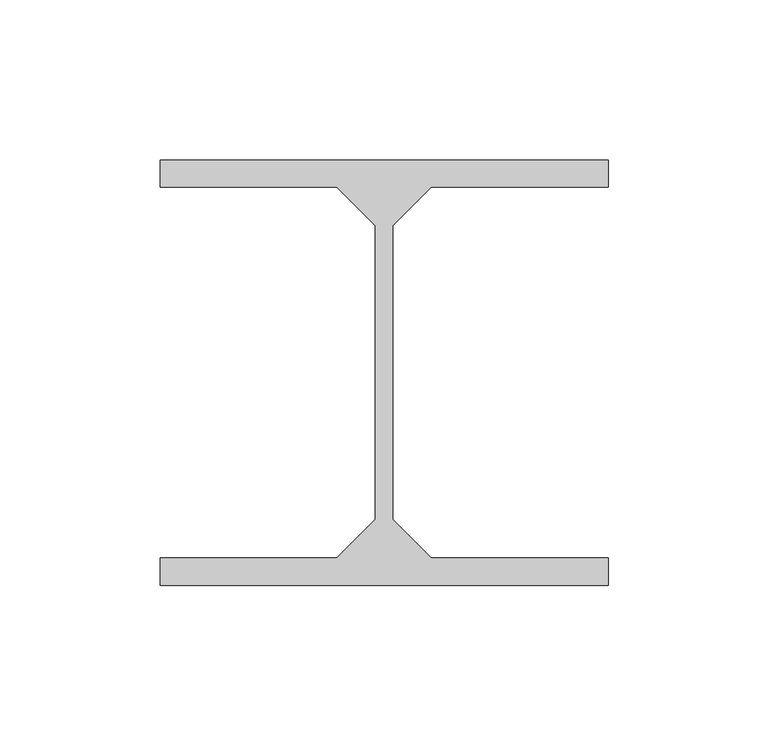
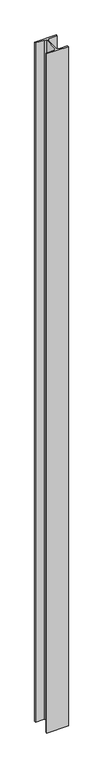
"""IFC4 building model written with IfcOpenShell, lengths in millimetres: beam geometry, Potelet 29307 : Potelet 29307."""

import ifcopenshell
import ifcopenshell.guid

model = None  # the IFC model being written
_history = None  # IfcOwnerHistory: only IFC2X3 demands one
_inside = {}  # id of a spatial element -> (the spatial element, [elements in it])
_under = {}  # id of a project, library or spatial element -> (it, [spatial elements below it])
_declared = {}  # id of a project -> (the project, [libraries it declares])
_typed = {}  # id of a type object -> (the type object, [elements of that type])
_made_of = {}  # id of a material, layer set ... -> (it, [elements and type objects made of it])


def new_model(schema):
    """Start an empty IFC model of exactly this schema.

    Asked for "IFC4X3", IfcOpenShell would pick the latest addendum, in which some entities
    have other attributes; the version numbers below select the first issue.
    IFC2X3 requires an IfcOwnerHistory on every rooted entity: one is made here for all.
    """
    global model, _history
    if schema == "IFC4X3":
        model = ifcopenshell.file(schema_version=(4, 3, 0, 0))
    else:
        model = ifcopenshell.file(schema=schema)
    _inside.clear()
    _under.clear()
    _declared.clear()
    _typed.clear()
    _made_of.clear()
    _history = None
    if model.schema == "IFC2X3":
        org = make("IfcOrganization", Name="unknown")
        user = make(
            "IfcPersonAndOrganization",
            ThePerson=make("IfcPerson", FamilyName="unknown"),
            TheOrganization=org,
        )
        app = make(
            "IfcApplication",
            ApplicationDeveloper=org,
            Version="unknown",
            ApplicationFullName="unknown",
            ApplicationIdentifier="unknown",
        )
        _history = make(
            "IfcOwnerHistory",
            OwningUser=user,
            OwningApplication=app,
            ChangeAction="ADDED",
            CreationDate=0,
        )
    return model


def make(cls, **values):
    """One entity of the class cls with the attributes given. An attribute that is None is left unset."""
    return model.create_entity(
        cls, **{name: value for name, value in values.items() if value is not None}
    )


def rooted(cls, **values):
    """An entity with a GlobalId (a new one), such as an element, a storey or a relation."""
    return make(cls, GlobalId=ifcopenshell.guid.new(), OwnerHistory=_history, **values)


def si_unit(unit_type, name, prefix=None):
    """IfcSIUnit, for example si_unit("LENGTHUNIT", "METRE", prefix="MILLI")."""
    return make("IfcSIUnit", UnitType=unit_type, Prefix=prefix, Name=name)


def assignment(units):
    """IfcUnitAssignment: the units of a project."""
    return None if units is None else make("IfcUnitAssignment", Units=units)


def point(xyz):
    """IfcCartesianPoint."""
    return None if xyz is None else make("IfcCartesianPoint", Coordinates=xyz)


def direction(xyz):
    """IfcDirection."""
    return None if xyz is None else make("IfcDirection", DirectionRatios=xyz)


def frame(location, z_axis=None, x_axis=None):
    """IfcAxis2Placement3D, a coordinate frame: its origin and axes. An axis left out is left unset."""
    return make(
        "IfcAxis2Placement3D",
        Location=point(location),
        Axis=direction(z_axis),
        RefDirection=direction(x_axis),
    )


def origin():
    """The frame at (0, 0, 0) with its axes left unset."""
    return frame((0.0, 0.0, 0.0))


def place(relative_to, where):
    """IfcLocalPlacement: puts the frame where relative to a parent placement (None: the world)."""
    return make(
        "IfcLocalPlacement", PlacementRelTo=relative_to, RelativePlacement=where
    )


def context(
    kind, dimensions, precision=None, world=None, true_north=None, identifier=None
):
    """IfcGeometricRepresentationContext, for example the 3D "Model" context."""
    return make(
        "IfcGeometricRepresentationContext",
        ContextIdentifier=identifier,
        ContextType=kind,
        CoordinateSpaceDimension=dimensions,
        Precision=precision,
        WorldCoordinateSystem=world,
        TrueNorth=true_north,
    )


def project(units=None, contexts=None):
    """IfcProject with its units and contexts."""
    return rooted(
        "IfcProject",
        Name="project",
        RepresentationContexts=contexts,
        UnitsInContext=assignment(units),
    )


def spatial(cls, under=None, at=None, **own):
    """A site, building, storey or space (cls), placed at a placement, below another one or the project."""
    s = rooted(cls, ObjectPlacement=at, **own)
    if under is not None:
        _under.setdefault(under.id(), (under, []))[1].append(s)
    return s


def polyline(points):
    """IfcPolyline through the points."""
    return make("IfcPolyline", Points=[point(p) for p in points])


def outline(outer, holes=None, kind="AREA"):
    """IfcArbitraryClosedProfileDef: a profile drawn as a closed curve; with holes, ...WithVoids."""
    if holes is None:
        return make("IfcArbitraryClosedProfileDef", ProfileType=kind, OuterCurve=outer)
    return make(
        "IfcArbitraryProfileDefWithVoids",
        ProfileType=kind,
        OuterCurve=outer,
        InnerCurves=holes,
    )


def extrude(swept, where, along, depth):
    """IfcExtrudedAreaSolid: the profile swept, set in the frame where, extruded along a direction by depth."""
    return make(
        "IfcExtrudedAreaSolid",
        SweptArea=swept,
        Position=where,
        ExtrudedDirection=direction(along),
        Depth=depth,
    )


def shape(context_of_items, identifier, shape_type, items):
    """IfcShapeRepresentation: the items that make up one representation, for example the "Body"."""
    return make(
        "IfcShapeRepresentation",
        ContextOfItems=context_of_items,
        RepresentationIdentifier=identifier,
        RepresentationType=shape_type,
        Items=items,
    )


def source(mapping_origin, context_of_items, identifier, shape_type, items):
    """IfcRepresentationMap: a shape defined once, which mapped items show again and again."""
    return make(
        "IfcRepresentationMap",
        MappingOrigin=mapping_origin,
        MappedRepresentation=shape(context_of_items, identifier, shape_type, items),
    )


def transform(
    local_origin,
    x_axis=None,
    y_axis=None,
    z_axis=None,
    scale=None,
    scale2=None,
    scale3=None,
    uniform=True,
):
    """IfcCartesianTransformationOperator3D, or its non-uniform kind. x_axis, y_axis, z_axis: its Axis1, 2, 3."""
    if uniform:
        return make(
            "IfcCartesianTransformationOperator3D",
            Axis1=direction(x_axis),
            Axis2=direction(y_axis),
            LocalOrigin=point(local_origin),
            Scale=scale,
            Axis3=direction(z_axis),
        )
    return make(
        "IfcCartesianTransformationOperator3DnonUniform",
        Axis1=direction(x_axis),
        Axis2=direction(y_axis),
        LocalOrigin=point(local_origin),
        Scale=scale,
        Axis3=direction(z_axis),
        Scale2=scale2,
        Scale3=scale3,
    )


def mapped(mapping_source, mapping_target):
    """IfcMappedItem: shows the shape of a source again, moved by a transform."""
    return make(
        "IfcMappedItem", MappingSource=mapping_source, MappingTarget=mapping_target
    )


def made_of(thing, what):
    """Note that an element or type object is made of a material, layer set ...; save() writes the relation."""
    if what is not None:
        _made_of.setdefault(what.id(), (what, []))[1].append(thing)
    return thing


def element(
    cls,
    number,
    at=None,
    inside=None,
    cuts=None,
    type_object=None,
    material=None,
    context=None,
    identifier="Body",
    shape_type=None,
    held_by="IfcProductDefinitionShape",
    body=None,
    shapes=None,
    **own,
):
    """One element of the class cls, such as IfcWall. Its Tag is "e" and its number.

    at: its placement. inside: the storey or other place that contains it. cuts: it is an
    opening in that element (IfcRelVoidsElement). A single representation is given by context,
    identifier, shape_type and body (its items); several are given by shapes. held_by: the class
    of the entity that holds the representations. save() writes the other relations.
    """
    e = rooted(cls, Tag="e%d" % number, ObjectPlacement=at, **own)
    if body is not None:
        shapes = [shape(context, identifier, shape_type, body)]
    if shapes is not None:
        e.Representation = make(held_by, Representations=shapes)
    if inside is not None:
        _inside.setdefault(inside.id(), (inside, []))[1].append(e)
    if cuts is not None:
        rooted(
            "IfcRelVoidsElement", RelatingBuildingElement=cuts, RelatedOpeningElement=e
        )
    if type_object is not None:
        _typed.setdefault(type_object.id(), (type_object, []))[1].append(e)
    return made_of(e, material)


def aggregate(whole, parts):
    """IfcRelAggregates: a whole, such as a stair, and the parts it consists of."""
    return rooted("IfcRelAggregates", RelatingObject=whole, RelatedObjects=parts)


def save(model, path):
    """Write the relations noted so far, then the file.

    IfcRelAggregates (storeys below a building ...), IfcRelContainedInSpatialStructure (elements
    in a storey), IfcRelDefinesByType, IfcRelAssociatesMaterial and IfcRelDeclares: one each for
    every whole, place, type object, material and project.
    """
    for whole, parts in _under.values():
        aggregate(whole, parts)
    for where, things in _inside.values():
        rooted(
            "IfcRelContainedInSpatialStructure",
            RelatedElements=things,
            RelatingStructure=where,
        )
    for kind, things in _typed.values():
        rooted("IfcRelDefinesByType", RelatedObjects=things, RelatingType=kind)
    for what, things in _made_of.values():
        rooted("IfcRelAssociatesMaterial", RelatedObjects=things, RelatingMaterial=what)
    for by, libraries in _declared.values():
        rooted("IfcRelDeclares", RelatingContext=by, RelatedDefinitions=libraries)
    model.write(path)


def beam_4ca940d6(model_context):
    return source(origin(), model_context, "Body", "SweptSolid", [
        extrude(outline(polyline([(11427.4999999, -12742.0), (11427.4999999, -12733.5), (11567.4999999, -12733.5), (11567.4999999, -12742.0), (11512.2499999, -12742.0), (11500.2499999, -12754.0), (11500.2499999, -12846.0), (11512.2499999, -12858.0), (11567.4999999, -12858.0), (11567.4999999, -12866.5), (11427.4999999, -12866.5), (11427.4999999, -12858.0), (11482.7499999, -12858.0), (11494.7499999, -12846.0), (11494.7499999, -12754.0), (11482.7499999, -12742.0), (11427.4999999, -12742.0)])), frame((0.0, 0.0, 7410.0), z_axis=(0.0, 0.0, 1.0), x_axis=(1.0, 0.0, 0.0)), (0.0, 0.0, 1.0), 4627.258392),
    ])


if __name__ == "__main__":
    model = new_model("IFC4")
    model_context = context("Model", 3, world=origin())
    ifc_project = project(units=[si_unit("LENGTHUNIT", "METRE", prefix="MILLI")], contexts=[model_context])
    site = spatial("IfcSite", under=ifc_project)
    building = spatial("IfcBuilding", under=site)
    placement = place(None, origin())
    beam_shape = beam_4ca940d6(model_context)
    element("IfcBeam", 1, ObjectType="Potelet 29307 : Potelet 29307", at=placement, inside=building, context=model_context, shape_type="MappedRepresentation", body=[
        mapped(beam_shape, transform((0.0, 0.0, 0.0), x_axis=(1.0, 0.0, 0.0), y_axis=(0.0, 1.0, 0.0), z_axis=(0.0, 0.0, 1.0))),
    ])
    save(model, "model.ifc")
